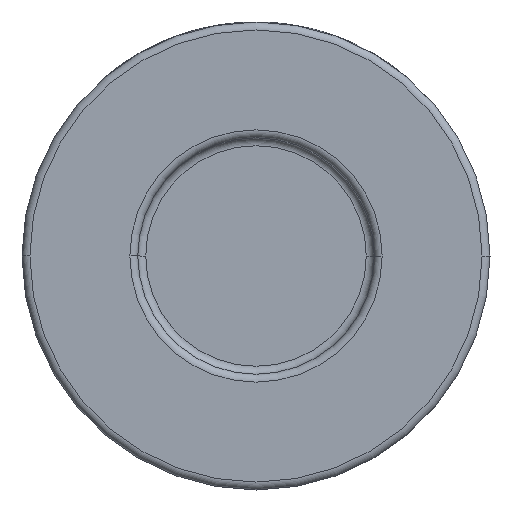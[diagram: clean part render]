
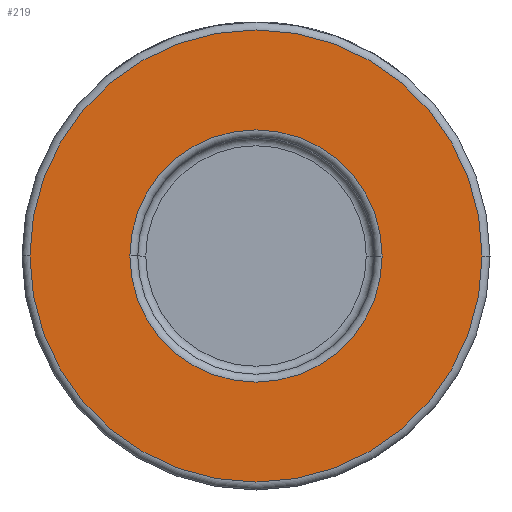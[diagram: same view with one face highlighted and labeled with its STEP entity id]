
A CAD part, front view. The second image highlights one B-rep face of the part: STEP entity #219.
In plain terms, the highlighted planar face has unit normal (0, -1, 0).
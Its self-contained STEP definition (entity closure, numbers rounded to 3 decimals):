
#15 = AXIS2_PLACEMENT_3D ( 'NONE', #2933, #2958, #3993 ) ;
#219 = ADVANCED_FACE ( 'NONE', ( #4295, #2558 ), #1861, .T. ) ;
#222 = AXIS2_PLACEMENT_3D ( 'NONE', #4269, #1054, #3475 ) ;
#419 = ORIENTED_EDGE ( 'NONE', *, *, #3851, .T. ) ;
#421 = CARTESIAN_POINT ( 'NONE',  ( 15.9, -27., 0. ) ) ;
#442 = CIRCLE ( 'NONE', #1944, 15.9 ) ;
#553 = CARTESIAN_POINT ( 'NONE',  ( 0., -27., 0. ) ) ;
#695 = CIRCLE ( 'NONE', #15, 15.9 ) ;
#702 = VERTEX_POINT ( 'NONE', #2775 ) ;
#739 = ORIENTED_EDGE ( 'NONE', *, *, #1855, .T. ) ;
#1054 = DIRECTION ( 'NONE',  ( 0., -1., 0. ) ) ;
#1133 = CARTESIAN_POINT ( 'NONE',  ( 0., -27., 0. ) ) ;
#1170 = CARTESIAN_POINT ( 'NONE',  ( -15.9, -27., 0. ) ) ;
#1300 = DIRECTION ( 'NONE',  ( 0., -1., 0. ) ) ;
#1330 = AXIS2_PLACEMENT_3D ( 'NONE', #1458, #2113, #2881 ) ;
#1458 = CARTESIAN_POINT ( 'NONE',  ( 29.5, -27., 0. ) ) ;
#1485 = CIRCLE ( 'NONE', #2084, 28.5 ) ;
#1525 = ORIENTED_EDGE ( 'NONE', *, *, #4563, .T. ) ;
#1533 = DIRECTION ( 'NONE',  ( 0., 1., 0. ) ) ;
#1855 = EDGE_CURVE ( 'NONE', #2053, #702, #1485, .T. ) ;
#1861 = PLANE ( 'NONE',  #1330 ) ;
#1944 = AXIS2_PLACEMENT_3D ( 'NONE', #1133, #1533, #2160 ) ;
#1946 = VERTEX_POINT ( 'NONE', #421 ) ;
#2053 = VERTEX_POINT ( 'NONE', #4193 ) ;
#2084 = AXIS2_PLACEMENT_3D ( 'NONE', #553, #1300, #2744 ) ;
#2113 = DIRECTION ( 'NONE',  ( 0., -1., 0. ) ) ;
#2160 = DIRECTION ( 'NONE',  ( 1., 0., 0. ) ) ;
#2474 = ORIENTED_EDGE ( 'NONE', *, *, #3633, .T. ) ;
#2558 = FACE_OUTER_BOUND ( 'NONE', #2898, .T. ) ;
#2689 = CIRCLE ( 'NONE', #222, 28.5 ) ;
#2744 = DIRECTION ( 'NONE',  ( 1., 0., 0. ) ) ;
#2775 = CARTESIAN_POINT ( 'NONE',  ( -28.5, -27., 0. ) ) ;
#2881 = DIRECTION ( 'NONE',  ( 1., 0., 0. ) ) ;
#2898 = EDGE_LOOP ( 'NONE', ( #739, #1525 ) ) ;
#2933 = CARTESIAN_POINT ( 'NONE',  ( 0., -27., 0. ) ) ;
#2958 = DIRECTION ( 'NONE',  ( 0., 1., 0. ) ) ;
#3475 = DIRECTION ( 'NONE',  ( 1., 0., 0. ) ) ;
#3633 = EDGE_CURVE ( 'NONE', #4352, #1946, #695, .T. ) ;
#3851 = EDGE_CURVE ( 'NONE', #1946, #4352, #442, .T. ) ;
#3993 = DIRECTION ( 'NONE',  ( 1., 0., 0. ) ) ;
#4193 = CARTESIAN_POINT ( 'NONE',  ( 28.5, -27., 0. ) ) ;
#4269 = CARTESIAN_POINT ( 'NONE',  ( 0., -27., 0. ) ) ;
#4276 = EDGE_LOOP ( 'NONE', ( #419, #2474 ) ) ;
#4295 = FACE_BOUND ( 'NONE', #4276, .T. ) ;
#4352 = VERTEX_POINT ( 'NONE', #1170 ) ;
#4563 = EDGE_CURVE ( 'NONE', #702, #2053, #2689, .T. ) ;
